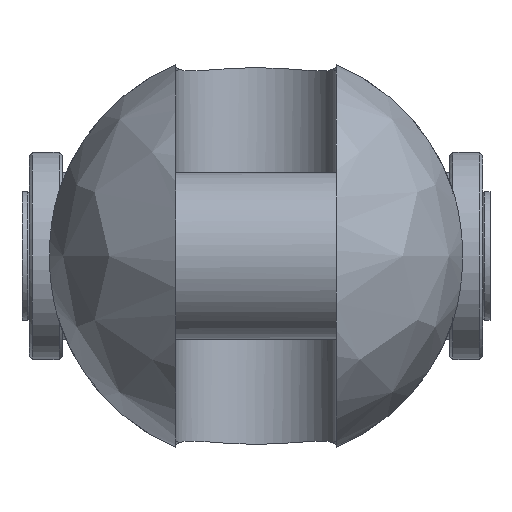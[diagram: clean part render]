
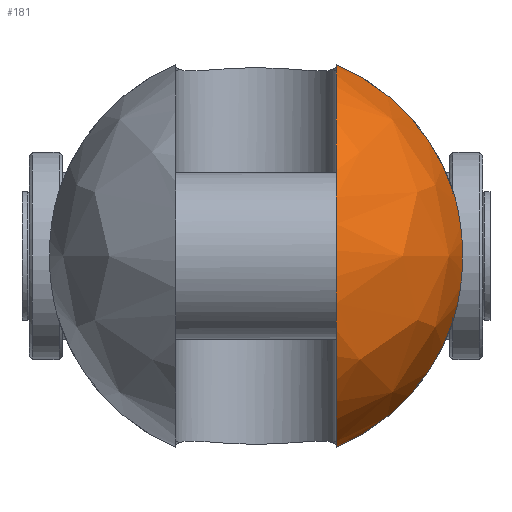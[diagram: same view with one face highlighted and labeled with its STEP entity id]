
A CAD part, left-side view. The second image highlights one B-rep face of the part: STEP entity #181.
In plain terms, the highlighted free-form (B-spline) face has degree [2, 2] with [9, 5] control points.
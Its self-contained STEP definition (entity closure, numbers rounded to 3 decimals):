
#181=ADVANCED_FACE('',(#324),#2448,.T.);
#324=FACE_OUTER_BOUND('',#487,.T.);
#487=EDGE_LOOP('',(#1210,#1211,#1212,#1213));
#1210=ORIENTED_EDGE('',*,*,#1600,.T.);
#1211=ORIENTED_EDGE('',*,*,#1623,.F.);
#1212=ORIENTED_EDGE('',*,*,#1634,.T.);
#1213=ORIENTED_EDGE('',*,*,#1616,.F.);
#1600=EDGE_CURVE('',#2278,#2277,#2009,.T.);
#1616=EDGE_CURVE('',#2278,#2290,#2019,.T.);
#1623=EDGE_CURVE('',#2297,#2277,#2020,.T.);
#1634=EDGE_CURVE('',#2297,#2290,#1810,.T.);
#1810=B_SPLINE_CURVE_WITH_KNOTS('',3,(#6154,#6155,#6156,#6157,#6158,#6159,
#6160,#6161,#6162,#6163,#6164,#6165,#6166,#6167),.UNSPECIFIED.,.F.,.F.,
(4,2,2,2,2,2,4),(0.,2.073,6.161,10.249,
14.337,18.426,20.498),.UNSPECIFIED.);
#2009=(
BOUNDED_CURVE()
B_SPLINE_CURVE(2,(#6014,#6015,#6016,#6017,#6018),.UNSPECIFIED.,.F.,.F.)
B_SPLINE_CURVE_WITH_KNOTS((3,2,3),(-89.797,-44.898,
0.),.UNSPECIFIED.)
CURVE()
GEOMETRIC_REPRESENTATION_ITEM()
RATIONAL_B_SPLINE_CURVE((1.,0.707,1.,0.707,1.))
REPRESENTATION_ITEM('')
);
#2019=(
BOUNDED_CURVE()
B_SPLINE_CURVE(2,(#6092,#6093,#6094),.UNSPECIFIED.,.F.,.F.)
B_SPLINE_CURVE_WITH_KNOTS((3,3),(0.,26.731),.UNSPECIFIED.)
CURVE()
GEOMETRIC_REPRESENTATION_ITEM()
RATIONAL_B_SPLINE_CURVE((1.,0.908,1.))
REPRESENTATION_ITEM('')
);
#2020=(
BOUNDED_CURVE()
B_SPLINE_CURVE(2,(#6115,#6116,#6117),.UNSPECIFIED.,.F.,.F.)
B_SPLINE_CURVE_WITH_KNOTS((3,3),(0.,26.731),.UNSPECIFIED.)
CURVE()
GEOMETRIC_REPRESENTATION_ITEM()
RATIONAL_B_SPLINE_CURVE((1.,0.908,1.))
REPRESENTATION_ITEM('')
);
#2277=VERTEX_POINT('',#5882);
#2278=VERTEX_POINT('',#5883);
#2290=VERTEX_POINT('',#5895);
#2297=VERTEX_POINT('',#5902);
#2448=(
BOUNDED_SURFACE()
B_SPLINE_SURFACE(2,2,((#5596,#5597,#5598,#5599,#5600),(#5601,#5602,#5603,
#5604,#5605),(#5606,#5607,#5608,#5609,#5610),(#5611,#5612,#5613,#5614,#5615),
(#5616,#5617,#5618,#5619,#5620),(#5621,#5622,#5623,#5624,#5625),(#5626,
#5627,#5628,#5629,#5630),(#5631,#5632,#5633,#5634,#5635),(#5636,#5637,#5638,
#5639,#5640)),.UNSPECIFIED.,.T.,.F.,.F.)
B_SPLINE_SURFACE_WITH_KNOTS((3,2,2,2,3),(3,2,3),(0.,48.695,97.389,
146.084,194.779),(0.,48.695,97.389),
 .UNSPECIFIED.)
GEOMETRIC_REPRESENTATION_ITEM()
RATIONAL_B_SPLINE_SURFACE(((1.,0.707,1.,0.707,1.),
(0.707,0.5,0.707,0.5,0.707),(1.,0.707,
1.,0.707,1.),(0.707,0.5,0.707,0.5,0.707),
(1.,0.707,1.,0.707,1.),(0.707,0.5,0.707,
0.5,0.707),(1.,0.707,1.,0.707,1.),(0.707,
0.5,0.707,0.5,0.707),(1.,0.707,1.,0.707,
1.)))
REPRESENTATION_ITEM('')
SURFACE()
);
#5596=CARTESIAN_POINT('',(-44.5,0.,0.));
#5597=CARTESIAN_POINT('',(-44.5,31.,0.));
#5598=CARTESIAN_POINT('',(-13.5,31.,0.));
#5599=CARTESIAN_POINT('',(17.5,31.,0.));
#5600=CARTESIAN_POINT('',(17.5,0.,0.));
#5601=CARTESIAN_POINT('',(-44.5,0.,0.));
#5602=CARTESIAN_POINT('',(-44.5,31.,31.));
#5603=CARTESIAN_POINT('',(-13.5,31.,31.));
#5604=CARTESIAN_POINT('',(17.5,31.,31.));
#5605=CARTESIAN_POINT('',(17.5,0.,0.));
#5606=CARTESIAN_POINT('',(-44.5,0.,0.));
#5607=CARTESIAN_POINT('',(-44.5,0.,31.));
#5608=CARTESIAN_POINT('',(-13.5,0.,31.));
#5609=CARTESIAN_POINT('',(17.5,0.,31.));
#5610=CARTESIAN_POINT('',(17.5,0.,0.));
#5611=CARTESIAN_POINT('',(-44.5,0.,0.));
#5612=CARTESIAN_POINT('',(-44.5,-31.,31.));
#5613=CARTESIAN_POINT('',(-13.5,-31.,31.));
#5614=CARTESIAN_POINT('',(17.5,-31.,31.));
#5615=CARTESIAN_POINT('',(17.5,0.,0.));
#5616=CARTESIAN_POINT('',(-44.5,0.,0.));
#5617=CARTESIAN_POINT('',(-44.5,-31.,0.));
#5618=CARTESIAN_POINT('',(-13.5,-31.,0.));
#5619=CARTESIAN_POINT('',(17.5,-31.,0.));
#5620=CARTESIAN_POINT('',(17.5,0.,0.));
#5621=CARTESIAN_POINT('',(-44.5,0.,0.));
#5622=CARTESIAN_POINT('',(-44.5,-31.,-31.));
#5623=CARTESIAN_POINT('',(-13.5,-31.,-31.));
#5624=CARTESIAN_POINT('',(17.5,-31.,-31.));
#5625=CARTESIAN_POINT('',(17.5,0.,0.));
#5626=CARTESIAN_POINT('',(-44.5,0.,0.));
#5627=CARTESIAN_POINT('',(-44.5,0.,-31.));
#5628=CARTESIAN_POINT('',(-13.5,0.,-31.));
#5629=CARTESIAN_POINT('',(17.5,0.,-31.));
#5630=CARTESIAN_POINT('',(17.5,0.,0.));
#5631=CARTESIAN_POINT('',(-44.5,0.,0.));
#5632=CARTESIAN_POINT('',(-44.5,31.,-31.));
#5633=CARTESIAN_POINT('',(-13.5,31.,-31.));
#5634=CARTESIAN_POINT('',(17.5,31.,-31.));
#5635=CARTESIAN_POINT('',(17.5,0.,0.));
#5636=CARTESIAN_POINT('',(-44.5,0.,0.));
#5637=CARTESIAN_POINT('',(-44.5,31.,0.));
#5638=CARTESIAN_POINT('',(-13.5,31.,0.));
#5639=CARTESIAN_POINT('',(17.5,31.,0.));
#5640=CARTESIAN_POINT('',(17.5,0.,0.));
#5882=CARTESIAN_POINT('',(-13.5,-12.,-28.583));
#5883=CARTESIAN_POINT('',(-13.5,-12.,28.583));
#5895=CARTESIAN_POINT('',(-13.5,-29.513,9.487));
#5902=CARTESIAN_POINT('',(-13.5,-29.513,-9.487));
#6014=CARTESIAN_POINT('',(-13.5,-12.,28.583));
#6015=CARTESIAN_POINT('',(-42.083,-12.,28.583));
#6016=CARTESIAN_POINT('',(-42.083,-12.,0.));
#6017=CARTESIAN_POINT('',(-42.083,-12.,-28.583));
#6018=CARTESIAN_POINT('',(-13.5,-12.,-28.583));
#6092=CARTESIAN_POINT('',(-13.5,-12.,28.583));
#6093=CARTESIAN_POINT('',(-13.5,-25.149,23.063));
#6094=CARTESIAN_POINT('',(-13.5,-29.513,9.487));
#6115=CARTESIAN_POINT('',(-13.5,-29.513,-9.487));
#6116=CARTESIAN_POINT('',(-13.5,-25.149,-23.063));
#6117=CARTESIAN_POINT('',(-13.5,-12.,-28.583));
#6154=CARTESIAN_POINT('',(-13.5,-29.513,-9.487));
#6155=CARTESIAN_POINT('',(-13.887,-29.69,-8.937));
#6156=CARTESIAN_POINT('',(-14.234,-29.847,-8.37));
#6157=CARTESIAN_POINT('',(-15.136,-30.253,-6.691));
#6158=CARTESIAN_POINT('',(-15.655,-30.483,-5.395));
#6159=CARTESIAN_POINT('',(-16.338,-30.784,-2.696));
#6160=CARTESIAN_POINT('',(-16.5,-30.854,-1.293));
#6161=CARTESIAN_POINT('',(-16.5,-30.854,1.293));
#6162=CARTESIAN_POINT('',(-16.338,-30.784,2.696));
#6163=CARTESIAN_POINT('',(-15.655,-30.483,5.395));
#6164=CARTESIAN_POINT('',(-15.136,-30.253,6.691));
#6165=CARTESIAN_POINT('',(-14.234,-29.847,8.37));
#6166=CARTESIAN_POINT('',(-13.887,-29.69,8.937));
#6167=CARTESIAN_POINT('',(-13.5,-29.513,9.487));
